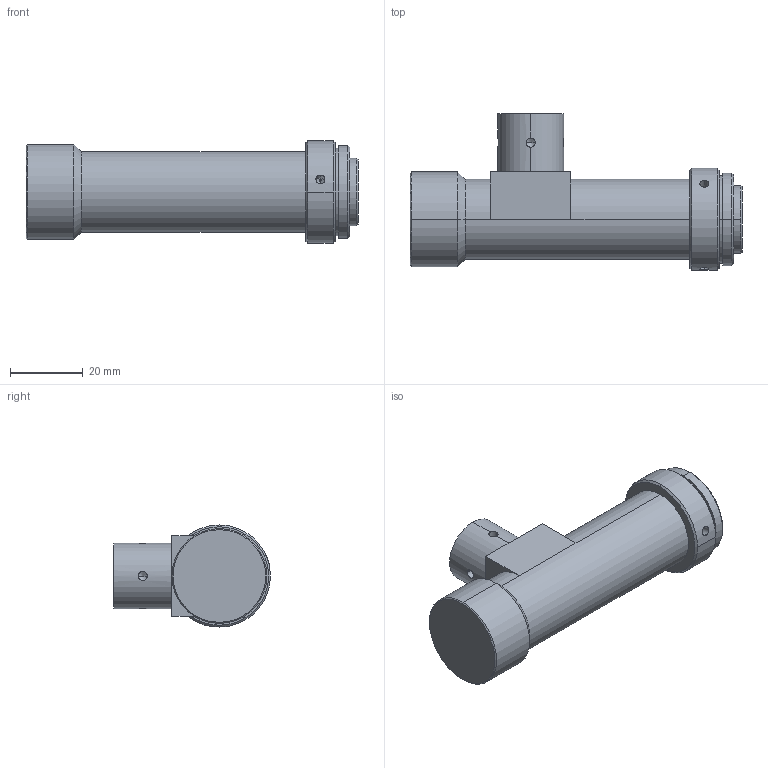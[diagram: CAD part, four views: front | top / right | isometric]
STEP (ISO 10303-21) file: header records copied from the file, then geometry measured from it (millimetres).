
FILE_DESCRIPTION (( 'STEP AP203' ), '1' );
FILE_NAME ('WWH30-65CT.STEP', '2019-02-14T05:58:57', ( '' ), ( '' ), 'SwSTEP 2.0', 'SolidWorks 2012', '' );
FILE_SCHEMA (( 'CONFIG_CONTROL_DESIGN' ));
Length unit declared in the file: millimetre
Products named in the file (1): WWH30-65CT
Bounding box: 91 x 43 x 28 mm (x, y, z)
Volume: 43974.7 mm3; surface area: 10010.2 mm2
Topology: 1 solids, 1 shells, 86 faces, 204 edges, 113 vertices
Faces by surface type: cylinder 39, cone 34, plane 13
Entity records: 2595 total; most frequent: CARTESIAN_POINT 632, DIRECTION 416, ORIENTED_EDGE 364, EDGE_CURVE 182, AXIS2_PLACEMENT_3D 165, VERTEX_POINT 113, EDGE_LOOP 101, VECTOR 86
